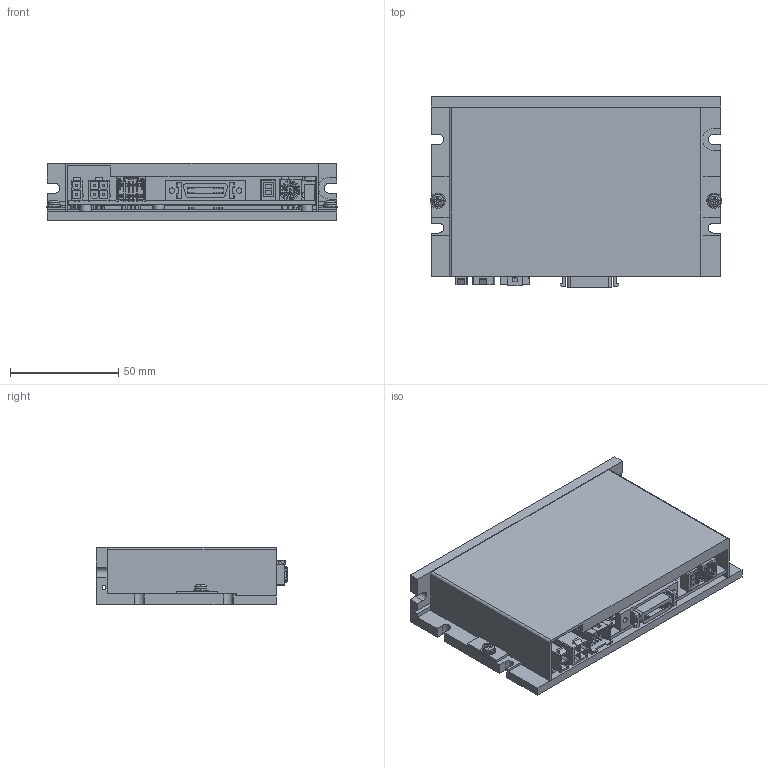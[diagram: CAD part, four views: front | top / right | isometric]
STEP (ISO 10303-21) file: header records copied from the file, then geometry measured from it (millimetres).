
FILE_DESCRIPTION (( 'STEP AP203' ), '1' );
FILE_NAME ('P13-DR-000-01-R00.STEP', '2017-04-26T06:49:53', ( '' ), ( '' ), 'SwSTEP 2.0', 'SolidWorks 2013', '' );
FILE_SCHEMA (( 'CONFIG_CONTROL_DESIGN' ));
Length unit declared in the file: millimetre
Products named in the file (17): M11-DR-000-01-R02; _Without knob-Dial; M13-DR-000-02-R02; S-1031A; PCB; 8; 039301020; 442480029; 039301040; pan cross head_ks_KS 1023 PC- M3 x 6-N; 559591030; spring lock washer_ks_KS 1324 - M3; N10226-5212-XC-01; plain washer normal grade a_iso_Washer ISO 7089 - 3; _X2_D30CD2B8_X0_94_2; P13-DR-000-01-R00; _S-1031A_body
Assembly tree (19 placements, depth 3):
  P13-DR-000-01-R00
    M11-DR-000-01-R02
    M13-DR-000-02-R02
    PCB
    039301020
    039301040
    559591030
    N10226-5212-XC-01
    _X2_D30CD2B8_X0_94_2
    S-1031A
      _S-1031A_body
      _Without knob-Dial
    8
    442480029
    pan cross head_ks_KS 1023 PC- M3 x 6-N  x2
    spring lock washer_ks_KS 1324 - M3  x2
    plain washer normal grade a_iso_Washer ISO 7089 - 3  x2
Bounding box: 135 x 88.63 x 26.5 mm (x, y, z)
Volume: 105123.3 mm3; surface area: 88606.1 mm2
Topology: 23 solids, 23 shells, 2664 faces, 7351 edges, 4830 vertices
Faces by surface type: plane 2050, cylinder 541, cone 44, bspline 17, torus 8, sphere 4
Entity records: 85506 total; most frequent: CARTESIAN_POINT 15893, ORIENTED_EDGE 14466, DIRECTION 13401, EDGE_CURVE 7233, LINE 6047, VECTOR 6047, VERTEX_POINT 4763, AXIS2_PLACEMENT_3D 3677
